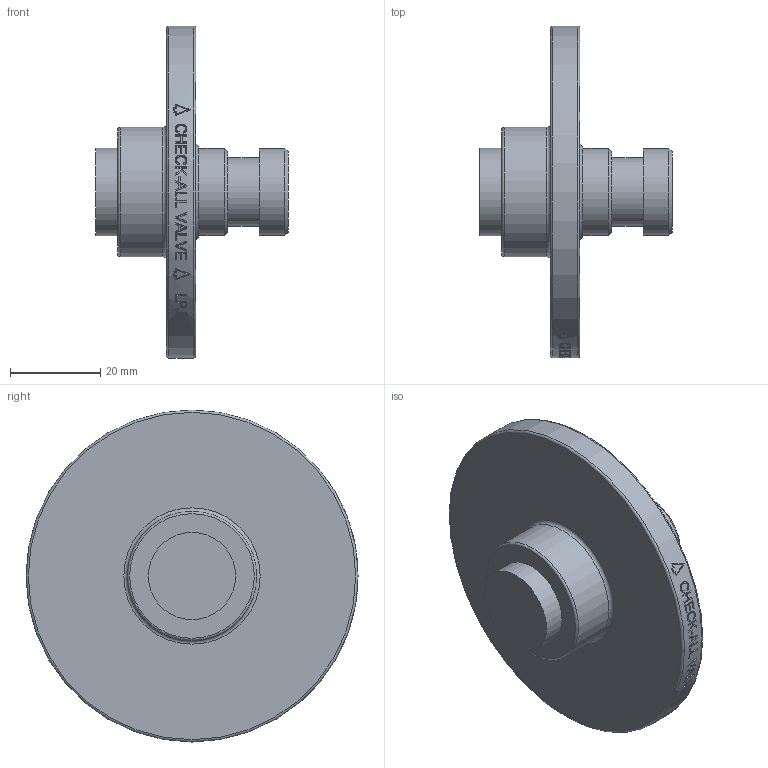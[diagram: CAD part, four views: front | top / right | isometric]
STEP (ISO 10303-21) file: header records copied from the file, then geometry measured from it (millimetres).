
FILE_DESCRIPTION( ( 'Unknown' ), '1' );
FILE_NAME( 'Y:/ENGR/3D Solid Edge Models/LP/LP(HC)-PRT/LPJ.stp', 'Unknown', ( 'Unknown' ), ( 'Unknown' ), 'PSStep 15.0.49', 'Unknown', ' ' );
FILE_SCHEMA( ( 'AUTOMOTIVE_DESIGN { 1 0 10303 214 1 1 1 1 }' ) );
Length unit declared in the file: millimetre
Products named in the file (1): 1
Bounding box: 42.57 x 73.41 x 73.41 mm (x, y, z)
Volume: 40883.1 mm3; surface area: 12418.4 mm2
Topology: 1 solids, 1 shells, 203 faces, 508 edges, 337 vertices
Faces by surface type: plane 120, bspline 46, cylinder 30, torus 4, cone 3
Full cylindrical faces by diameter (mm): 15.062 x1, 19.253 x2, 19.304 x1, 28.575 x1, 73.406 x1
Entity records: 9312 total; most frequent: CARTESIAN_POINT 3924, ORIENTED_EDGE 988, EDGE_CURVE 494, B_SPLINE_CURVE_WITH_KNOTS 474, DIRECTION 356, VERTEX_POINT 336, EDGE_LOOP 246, FACE_OUTER_BOUND 213
